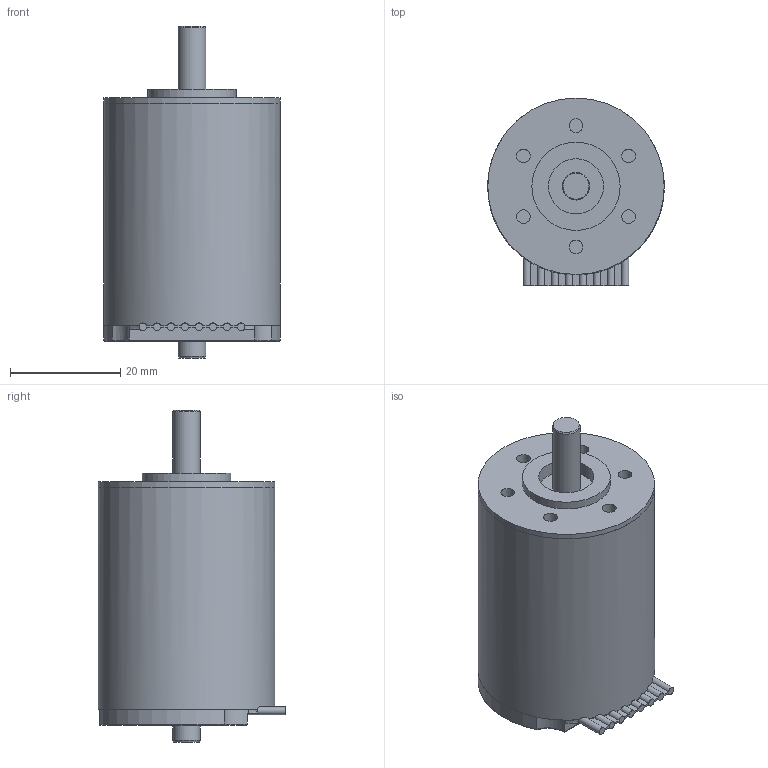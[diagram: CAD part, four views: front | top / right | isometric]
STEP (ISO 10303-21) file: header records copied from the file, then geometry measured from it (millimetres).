
FILE_DESCRIPTION(/* description */ (''),/* implementation_level */ '2;1');
FILE_NAME(/* name */ '3242.BX4.stp',/* time_stamp */ '2012-10-31T10:35:25+01:00',/* author */ ('DR. FRITZ FAULHABER GmbH & Co. KG'),/* organization */ ('DR. FRITZ FAULHABER GmbH & Co. KG'),/* preprocessor_version */ 'ST-DEVELOPER v11',/* originating_system */ 'SIEMENS PLM Software NX 7.5',/* authorisation */ '');
FILE_SCHEMA (('AUTOMOTIVE_DESIGN { 1 0 10303 214 1 1 1 1 }'));
Length unit declared in the file: millimetre
Products named in the file (1): 3242.BX4
Bounding box: 32 x 34 x 60.2 mm (x, y, z)
Volume: 35631.7 mm3; surface area: 6842.7 mm2
Topology: 1 solids, 1 shells, 118 faces, 297 edges, 194 vertices
Faces by surface type: plane 59, cylinder 51, torus 6, cone 2
Full cylindrical faces by diameter (mm): 2.5 x6, 5 x2, 10 x1, 11.1 x1, 16 x1, 31.99 x1, 32 x2
Entity records: 3821 total; most frequent: CARTESIAN_POINT 1017, DIRECTION 593, ORIENTED_EDGE 552, EDGE_CURVE 276, AXIS2_PLACEMENT_3D 244, VERTEX_POINT 190, EDGE_LOOP 148, CIRCLE 125
